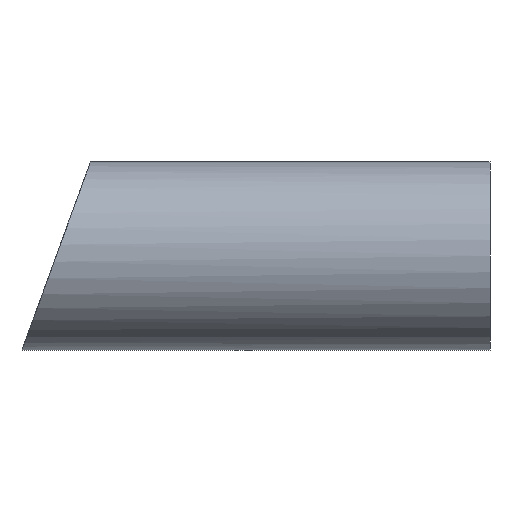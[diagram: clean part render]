
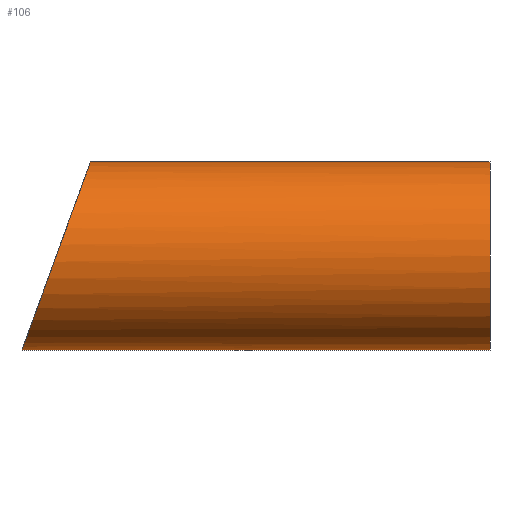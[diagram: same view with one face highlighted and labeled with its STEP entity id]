
A CAD part, left-side view. The second image highlights one B-rep face of the part: STEP entity #106.
In plain terms, the highlighted cylindrical face has radius 30.15 mm (diameter 60.3 mm), a full revolution.
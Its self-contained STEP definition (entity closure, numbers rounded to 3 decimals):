
#2 = CARTESIAN_POINT ( 'NONE',  ( -60.3, 738.053, 72.789 ) ) ;
#11 = ORIENTED_EDGE ( 'NONE', *, *, #28, .T. ) ;
#18 = VERTEX_POINT ( 'NONE', #84 ) ;
#19 = FACE_OUTER_BOUND ( 'NONE', #45, .T. ) ;
#24 = CARTESIAN_POINT ( 'NONE',  ( 0., 760., 12.489 ) ) ;
#28 = EDGE_CURVE ( 'NONE', #18, #18, #40, .T. ) ;
#31 = CIRCLE ( 'NONE', #41, 30.15 ) ;
#36 = CARTESIAN_POINT ( 'NONE',  ( 0., 760., 42.639 ) ) ;
#39 = FACE_OUTER_BOUND ( 'NONE', #80, .T. ) ;
#40 =( BOUNDED_CURVE ( )  B_SPLINE_CURVE ( 3, ( #65, #63, #73, #55, #2, #114, #24 ),
 .UNSPECIFIED., .T., .T. ) 
 B_SPLINE_CURVE_WITH_KNOTS ( ( 4, 3, 4 ),
 ( 0., 3.142, 6.283 ),
 .UNSPECIFIED. ) 
 CURVE ( )  GEOMETRIC_REPRESENTATION_ITEM ( )  RATIONAL_B_SPLINE_CURVE ( ( 1., 0.333, 0.333, 1., 0.333, 0.333, 1. ) ) 
 REPRESENTATION_ITEM ( '' )  );
#41 = AXIS2_PLACEMENT_3D ( 'NONE', #93, #50, #124 ) ;
#45 = EDGE_LOOP ( 'NONE', ( #70 ) ) ;
#50 = DIRECTION ( 'NONE',  ( 0., 1., 0. ) ) ;
#55 = CARTESIAN_POINT ( 'NONE',  ( 0., 738.053, 72.789 ) ) ;
#63 = CARTESIAN_POINT ( 'NONE',  ( 60.3, 760., 12.489 ) ) ;
#65 = CARTESIAN_POINT ( 'NONE',  ( 0., 760., 12.489 ) ) ;
#70 = ORIENTED_EDGE ( 'NONE', *, *, #71, .T. ) ;
#71 = EDGE_CURVE ( 'NONE', #96, #96, #31, .T. ) ;
#73 = CARTESIAN_POINT ( 'NONE',  ( 60.3, 738.053, 72.789 ) ) ;
#75 = DIRECTION ( 'NONE',  ( 0., 1., 0. ) ) ;
#76 = CYLINDRICAL_SURFACE ( 'NONE', #107, 30.15 ) ;
#77 = CARTESIAN_POINT ( 'NONE',  ( 0., 610., 72.789 ) ) ;
#80 = EDGE_LOOP ( 'NONE', ( #11 ) ) ;
#83 = DIRECTION ( 'NONE',  ( 0., 0., 1. ) ) ;
#84 = CARTESIAN_POINT ( 'NONE',  ( 0., 760., 12.489 ) ) ;
#93 = CARTESIAN_POINT ( 'NONE',  ( 0., 610., 42.639 ) ) ;
#96 = VERTEX_POINT ( 'NONE', #77 ) ;
#106 = ADVANCED_FACE ( 'NONE', ( #19, #39 ), #76, .T. ) ;
#107 = AXIS2_PLACEMENT_3D ( 'NONE', #36, #75, #83 ) ;
#114 = CARTESIAN_POINT ( 'NONE',  ( -60.3, 760., 12.489 ) ) ;
#124 = DIRECTION ( 'NONE',  ( 0., 0., 1. ) ) ;
